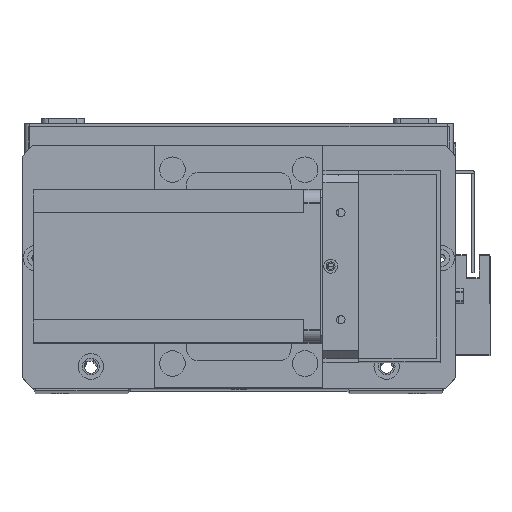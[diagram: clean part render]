
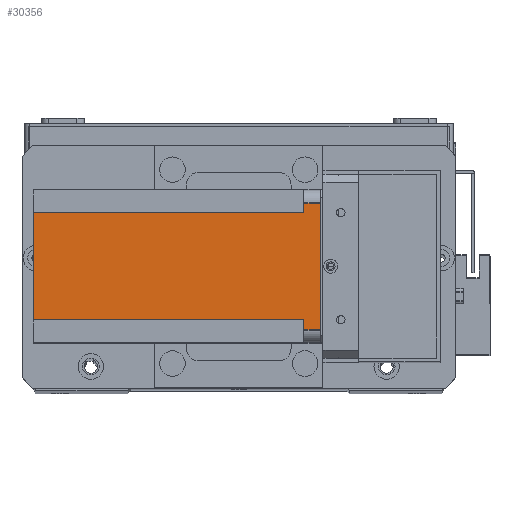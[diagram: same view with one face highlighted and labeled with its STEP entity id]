
A CAD part, top view. The second image highlights one B-rep face of the part: STEP entity #30356.
In plain terms, the highlighted planar face has unit normal (0, 0, 1) as drawn and (-1, 0, 0) by its records, which use the part's own axes.
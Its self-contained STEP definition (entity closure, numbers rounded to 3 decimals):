
#304 = LINE ( 'NONE', #19106, #25063 ) ;
#660 = LINE ( 'NONE', #19723, #26102 ) ;
#957 = EDGE_LOOP ( 'NONE', ( #26567, #3312, #9008, #19874, #23883, #26838, #29276, #19769 ) ) ;
#1545 = DIRECTION ( 'NONE',  ( -1., 0., 0. ) ) ;
#2500 = CARTESIAN_POINT ( 'NONE',  ( 0., 55., -6.5 ) ) ;
#2968 = VERTEX_POINT ( 'NONE', #13960 ) ;
#3312 = ORIENTED_EDGE ( 'NONE', *, *, #25357, .T. ) ;
#4910 = CARTESIAN_POINT ( 'NONE',  ( 0., 51., -6.5 ) ) ;
#5038 = DIRECTION ( 'NONE',  ( 0., 1., 0. ) ) ;
#5363 = CARTESIAN_POINT ( 'NONE',  ( 0., 9., -112.5 ) ) ;
#6189 = VERTEX_POINT ( 'NONE', #2500 ) ;
#6340 = CARTESIAN_POINT ( 'NONE',  ( 0., 0., -112.5 ) ) ;
#6348 = VECTOR ( 'NONE', #7610, 1000. ) ;
#7040 = CARTESIAN_POINT ( 'NONE',  ( 0., 9., -112.5 ) ) ;
#7160 = LINE ( 'NONE', #22058, #19335 ) ;
#7196 = LINE ( 'NONE', #20685, #30637 ) ;
#7610 = DIRECTION ( 'NONE',  ( 0., -1., 0. ) ) ;
#7628 = VERTEX_POINT ( 'NONE', #7040 ) ;
#9008 = ORIENTED_EDGE ( 'NONE', *, *, #25150, .F. ) ;
#9499 = DIRECTION ( 'NONE',  ( 0., 0., 1. ) ) ;
#9842 = CARTESIAN_POINT ( 'NONE',  ( 0., 51., -112.5 ) ) ;
#9885 = VECTOR ( 'NONE', #10431, 1000. ) ;
#10431 = DIRECTION ( 'NONE',  ( 0., 0., -1. ) ) ;
#10654 = LINE ( 'NONE', #5363, #9885 ) ;
#12507 = CARTESIAN_POINT ( 'NONE',  ( 0., 0., -112.5 ) ) ;
#13960 = CARTESIAN_POINT ( 'NONE',  ( 0., 5., -6.5 ) ) ;
#14045 = CARTESIAN_POINT ( 'NONE',  ( 0., 0., -6.5 ) ) ;
#15768 = VERTEX_POINT ( 'NONE', #4910 ) ;
#16274 = PLANE ( 'NONE',  #18184 ) ;
#16712 = CARTESIAN_POINT ( 'NONE',  ( 0., 9., -6.5 ) ) ;
#18184 = AXIS2_PLACEMENT_3D ( 'NONE', #6340, #1545, #18605 ) ;
#18605 = DIRECTION ( 'NONE',  ( 0., -1., 0. ) ) ;
#18877 = DIRECTION ( 'NONE',  ( 0., 1., 0. ) ) ;
#19106 = CARTESIAN_POINT ( 'NONE',  ( 0., 5., -112.5 ) ) ;
#19335 = VECTOR ( 'NONE', #24303, 1000. ) ;
#19723 = CARTESIAN_POINT ( 'NONE',  ( 0., 60., -6.5 ) ) ;
#19732 = LINE ( 'NONE', #28093, #25774 ) ;
#19769 = ORIENTED_EDGE ( 'NONE', *, *, #25623, .F. ) ;
#19874 = ORIENTED_EDGE ( 'NONE', *, *, #25363, .T. ) ;
#20685 = CARTESIAN_POINT ( 'NONE',  ( 0., 0., 0. ) ) ;
#21920 = LINE ( 'NONE', #14045, #27151 ) ;
#22058 = CARTESIAN_POINT ( 'NONE',  ( 0., 51., -112.5 ) ) ;
#23034 = CARTESIAN_POINT ( 'NONE',  ( 0., 55., 0. ) ) ;
#23733 = DIRECTION ( 'NONE',  ( 0., 0., -1. ) ) ;
#23883 = ORIENTED_EDGE ( 'NONE', *, *, #25527, .F. ) ;
#23998 = VERTEX_POINT ( 'NONE', #27741 ) ;
#24031 = FACE_OUTER_BOUND ( 'NONE', #957, .T. ) ;
#24303 = DIRECTION ( 'NONE',  ( 0., 0., 1. ) ) ;
#25063 = VECTOR ( 'NONE', #9499, 1000. ) ;
#25150 = EDGE_CURVE ( 'NONE', #29537, #23998, #7196, .T. ) ;
#25278 = EDGE_CURVE ( 'NONE', #2968, #25871, #21920, .T. ) ;
#25357 = EDGE_CURVE ( 'NONE', #2968, #23998, #304, .T. ) ;
#25363 = EDGE_CURVE ( 'NONE', #29537, #6189, #19732, .T. ) ;
#25404 = LINE ( 'NONE', #12507, #6348 ) ;
#25527 = EDGE_CURVE ( 'NONE', #15768, #6189, #660, .T. ) ;
#25533 = EDGE_CURVE ( 'NONE', #28656, #15768, #7160, .T. ) ;
#25536 = EDGE_CURVE ( 'NONE', #28656, #7628, #25404, .T. ) ;
#25623 = EDGE_CURVE ( 'NONE', #25871, #7628, #10654, .T. ) ;
#25774 = VECTOR ( 'NONE', #23733, 1000. ) ;
#25871 = VERTEX_POINT ( 'NONE', #16712 ) ;
#26102 = VECTOR ( 'NONE', #5038, 1000. ) ;
#26567 = ORIENTED_EDGE ( 'NONE', *, *, #25278, .F. ) ;
#26838 = ORIENTED_EDGE ( 'NONE', *, *, #25533, .F. ) ;
#27151 = VECTOR ( 'NONE', #18877, 1000. ) ;
#27741 = CARTESIAN_POINT ( 'NONE',  ( 0., 5., 0. ) ) ;
#28093 = CARTESIAN_POINT ( 'NONE',  ( 0., 55., -112.5 ) ) ;
#28656 = VERTEX_POINT ( 'NONE', #9842 ) ;
#29276 = ORIENTED_EDGE ( 'NONE', *, *, #25536, .T. ) ;
#29537 = VERTEX_POINT ( 'NONE', #23034 ) ;
#29546 = DIRECTION ( 'NONE',  ( 0., -1., 0. ) ) ;
#30356 = ADVANCED_FACE ( 'NONE', ( #24031 ), #16274, .T. ) ;
#30637 = VECTOR ( 'NONE', #29546, 1000. ) ;
